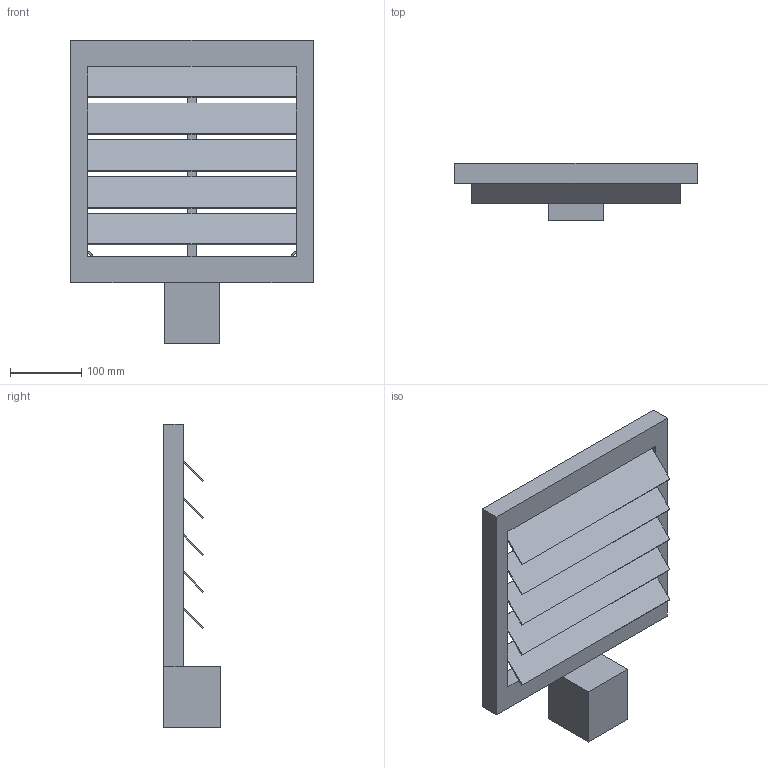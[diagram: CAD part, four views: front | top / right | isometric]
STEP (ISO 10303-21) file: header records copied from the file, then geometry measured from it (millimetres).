
FILE_DESCRIPTION(/* description */ (''),/* implementation_level */ '2;1');
FILE_NAME(/* name */ 'Z:\Output\EVK_315-00776-001.stp',/* time_stamp */ '2017-07-11T15:26:02+02:00',/* author */ ('pareshmistry'),/* organization */ (''),/* preprocessor_version */ 'ST-DEVELOPER v16.5',/* originating_system */ 'Autodesk Inventor 2017',/* authorisation */ '');
FILE_SCHEMA (('AUTOMOTIVE_DESIGN { 1 0 10303 214 3 1 1 }'));
Length unit declared in the file: millimetre
Products named in the file (1): EVK-1
Bounding box: 340 x 80 x 426 mm (x, y, z)
Volume: 1800350 mm3; surface area: 375700.6 mm2
Topology: 1 solids, 1 shells, 82 faces, 265 edges, 160 vertices
Faces by surface type: plane 74, cylinder 8
Full cylindrical faces by diameter (mm): 8 x4
Entity records: 2881 total; most frequent: ORIENTED_EDGE 526, CARTESIAN_POINT 500, DIRECTION 453, EDGE_CURVE 259, LINE 231, VECTOR 231, VERTEX_POINT 158, AXIS2_PLACEMENT_3D 111
